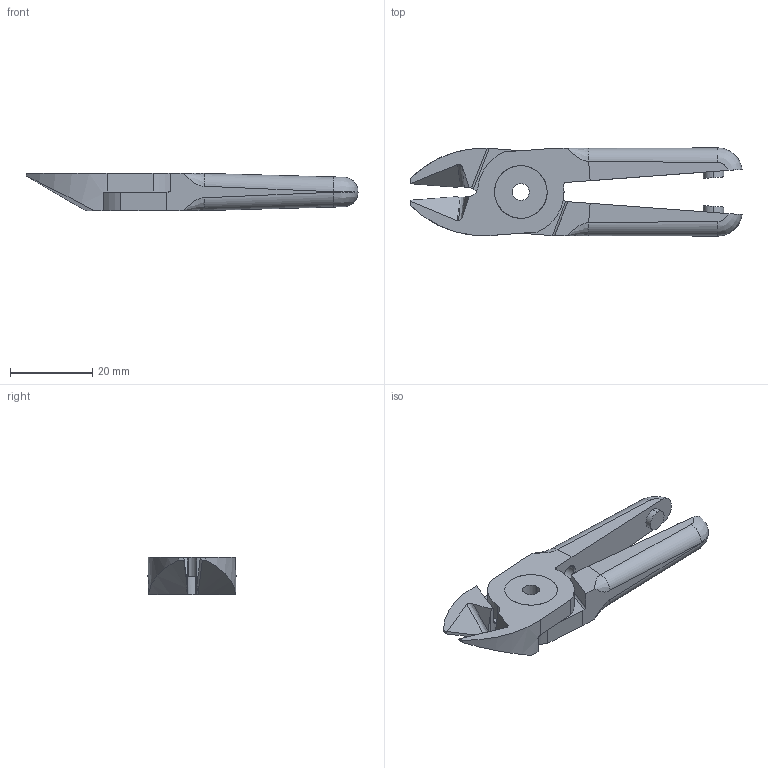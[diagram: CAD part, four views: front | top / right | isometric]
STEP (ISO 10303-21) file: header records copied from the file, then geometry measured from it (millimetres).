
FILE_DESCRIPTION (( 'STEP AP214' ), '1' );
FILE_NAME ('N7HS.STEP', '2019-11-29T01:52:54', ( '微软用户' ), ( '微软中国' ), 'SwSTEP 2.0', 'SolidWorks 2016', '' );
FILE_SCHEMA (( 'AUTOMOTIVE_DESIGN' ));
Length unit declared in the file: millimetre
Products named in the file (4): BR2; BR1; BS; N7HS
Assembly tree (3 placements, depth 2):
  N7HS
    BS
    BR1
    BR2
Bounding box: 80.67 x 21.43 x 9 mm (x, y, z)
Volume: 8857.4 mm3; surface area: 6087.1 mm2
Topology: 3 solids, 3 shells, 111 faces, 297 edges, 186 vertices
Faces by surface type: plane 42, cylinder 28, bspline 23, cone 18
Entity records: 4752 total; most frequent: CARTESIAN_POINT 2091, ORIENTED_EDGE 574, DIRECTION 461, EDGE_CURVE 287, VERTEX_POINT 186, AXIS2_PLACEMENT_3D 161, LINE 139, VECTOR 139
